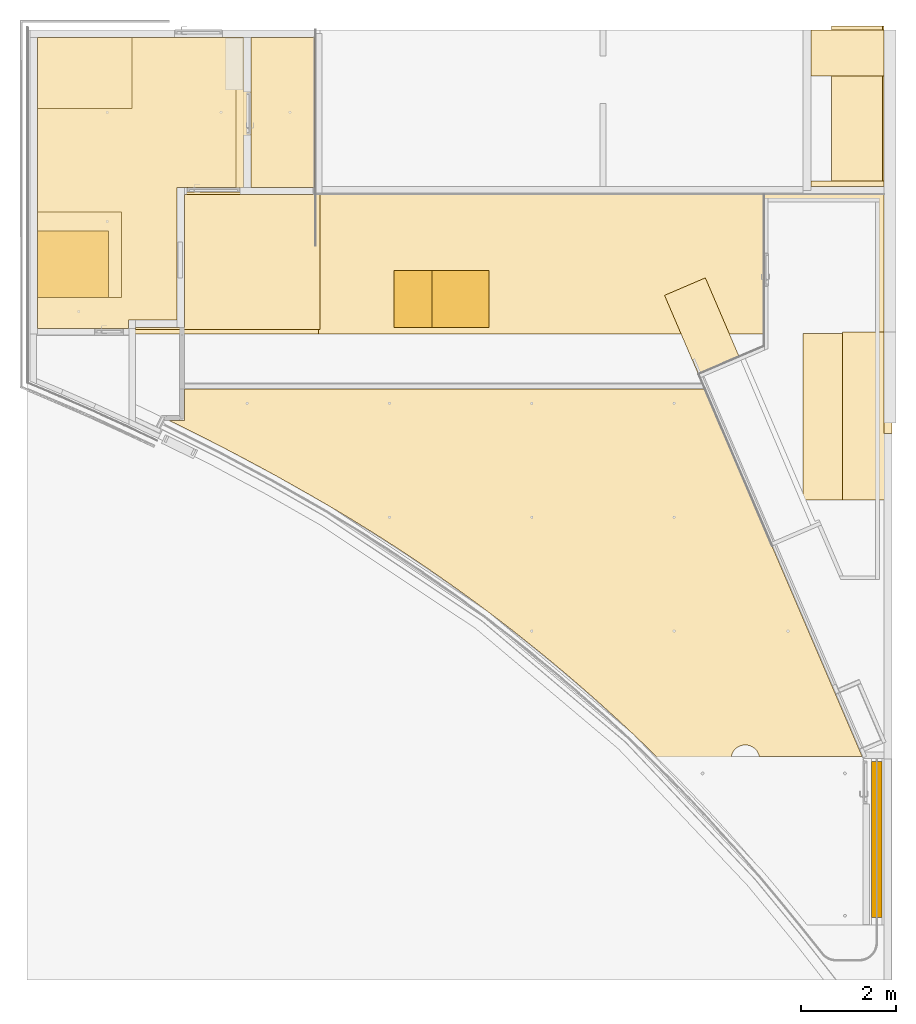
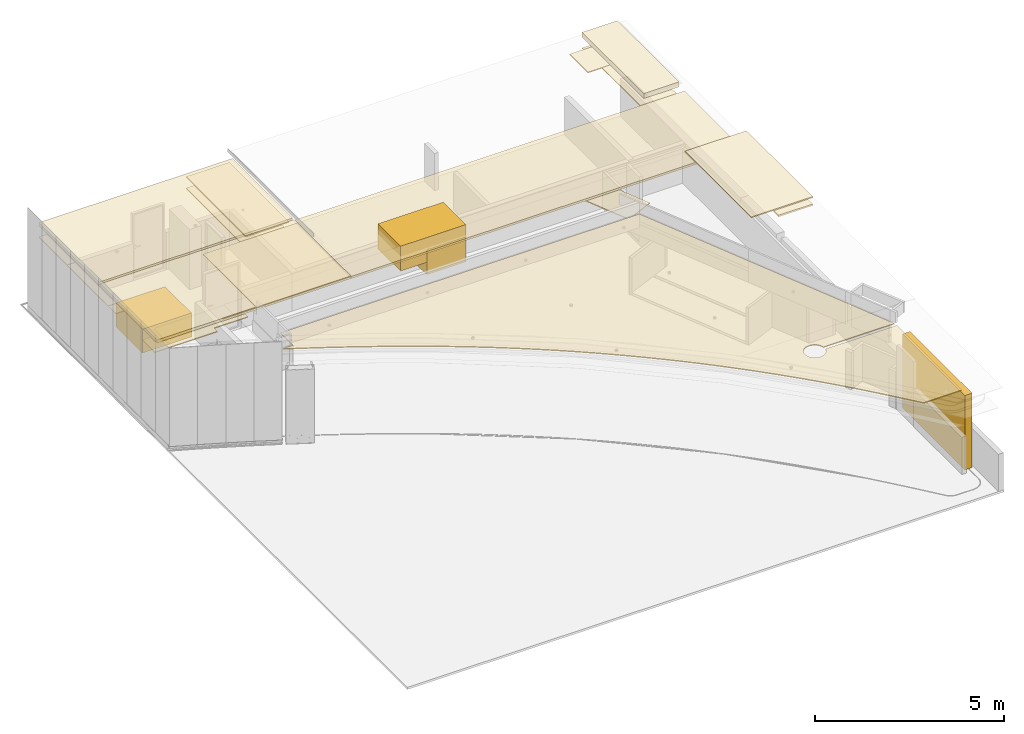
# One storey, part 10 of 16: 20 coverings, 1 door.
"""IFC2X3 building model written with IfcOpenShell, lengths in millimetres."""

from ifc_helpers import new_model, entity, si_unit, converted_unit, derived_unit, direction, frame, frame_2d, origin, origin_with_axes, origin_2d_with_axis, place, context, subcontext, project, spatial, polyline, circle_curve, parameter, trimmed, segment, composite_curve, rectangle, outline, extrude, faceted_brep, source, transform, mapped, material, layer, layer_set, layer_usage, type_object, element, save


model = new_model("IFC2X3")

# Units and contexts
model_context = context("Model", 3, precision=0.01, world=frame((0.0, 4.29681676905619e-09, 0.0)), true_north=direction((4.01073788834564e-13, 1.0)))
plan_context = context("Plan", 3, precision=0.01, world=frame((0.0, 4.29681676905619e-09, 0.0)), true_north=direction((4.01073788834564e-13, 1.0)))
body_context = subcontext(model_context, "Body", "Model", "MODEL_VIEW")
ifc_project = project(units=[converted_unit("PLANEANGLEUNIT", "DEGREE", entity("IfcPositiveLengthMeasure", 0.0174532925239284), si_unit("PLANEANGLEUNIT", "RADIAN"), dimensions=[0, 0, 0, 0, 0, 0, 0]), si_unit("AREAUNIT", "SQUARE_METRE"), si_unit("LENGTHUNIT", "METRE", prefix="MILLI"), si_unit("MASSUNIT", "GRAM", prefix="KILO"), si_unit("POWERUNIT", "WATT"), si_unit("PRESSUREUNIT", "PASCAL"), si_unit("FORCEUNIT", "NEWTON", prefix="KILO"), si_unit("ELECTRICCURRENTUNIT", "AMPERE"), si_unit("THERMODYNAMICTEMPERATUREUNIT", "DEGREE_CELSIUS"), si_unit("TIMEUNIT", "SECOND"), si_unit("VOLUMEUNIT", "CUBIC_METRE"), derived_unit("LINEARVELOCITYUNIT", [(si_unit("LENGTHUNIT", "METRE"), 1), (si_unit("TIMEUNIT", "SECOND"), -1)]), derived_unit("VOLUMETRICFLOWRATEUNIT", [(si_unit("VOLUMEUNIT", "CUBIC_METRE"), 1), (si_unit("TIMEUNIT", "SECOND"), -1)]), derived_unit("THERMALTRANSMITTANCEUNIT", [(si_unit("POWERUNIT", "WATT"), 1), (si_unit("THERMODYNAMICTEMPERATUREUNIT", "KELVIN"), -1), (si_unit("AREAUNIT", "SQUARE_METRE"), -1)])], contexts=[model_context, plan_context])

# Site, building, storey
site_placement = place(None, origin_with_axes())
site = spatial("IfcSite", under=ifc_project, at=site_placement, Name="ENGM", CompositionType="ELEMENT")
building_placement = place(site_placement, origin_with_axes())
building = spatial("IfcBuilding", under=site, at=building_placement, Name="TS", CompositionType="ELEMENT")
storey_placement = place(building_placement, frame((0.0, 0.0, 204000.0), z_axis=(0.0, 0.0, 1.0), x_axis=(1.0, 0.0, 0.0)))
storey = spatial("IfcBuildingStorey", under=building, at=storey_placement, Name="Nivå D", CompositionType="ELEMENT", Elevation=204000.0)

# Door
ifc_material_1 = material(Name="<Unnamed>")
door_style = type_object("IfcDoorStyle", Name="A243 - InPlace - Foldegitter nivå D:A243 - InPlace - Foldegitter nivå D", ConstructionType="NOTDEFINED", OperationType="NOTDEFINED", ParameterTakesPrecedence=False, Sizeable=False, material=ifc_material_1)
shared_shape = source(origin(), body_context, "Body", "SweptSolid", [
    extrude(rectangle(XDim=226.049428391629, YDim=3287.78518884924, at=frame_2d((0.0, -3.46744855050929e-11), x_axis=(1.0, 0.0))), frame((531769.266436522, 403802.357405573, 204000.0), z_axis=(0.0, 0.0, 1.0), x_axis=(-1.0, 0.0, 0.0)), (0.0, 0.0, 1.0), 2400.00000000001),
])
door_placement = place(storey_placement, frame((0.0, 0.0, -204000.0), z_axis=(0.0, 0.0, 1.0), x_axis=(1.0, 0.0, 0.0)))
element("IfcDoor", 1, at=door_placement, inside=storey, type_object=door_style, material=ifc_material_1, Name="A243 - InPlace - Foldegitter nivå D:A243 - InPlace - Foldegitter nivå D", ObjectType="A243 - InPlace - Foldegitter nivå D:A243 - InPlace - Foldegitter nivå D", OverallHeight=3287.78518884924, OverallWidth=226.049428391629, context=body_context, shape_type="MappedRepresentation", body=[
    mapped(shared_shape, transform((0.0, 0.0, 0.0), scale=1.0)),
])

# Coverings
ifc_material_2 = material(Name="_NSW X-finer")
ifc_layer_1 = layer(ifc_material_2, 20.0)
ifc_material_3 = material(Name="_NSW Stålstender, uisolert")
ifc_layer_2 = layer(ifc_material_3, 70.0)
ifc_layer_set_1 = layer_set([ifc_layer_1, ifc_layer_2], Name="Compound Ceiling:A255 - Eksisterende - X-finer 20 mm + TRP 70 mm")
ifc_layer_usage_1 = layer_usage(ifc_layer_set_1, "AXIS3", "NEGATIVE", 90.0)
covering_type_1 = type_object("IfcCoveringType", Name="Compound Ceiling:A255 - Eksisterende - X-finer 20 mm + TRP 70 mm", PredefinedType="CEILING")
covering_1_placement = place(storey_placement, origin_with_axes())
element("IfcCovering", 2, at=covering_1_placement, inside=storey, type_object=covering_type_1, material=ifc_layer_usage_1, Name="Compound Ceiling:A255 - Eksisterende - X-finer 20 mm + TRP 70 mm", ObjectType="Compound Ceiling:A255 - Eksisterende - X-finer 20 mm + TRP 70 mm", PredefinedType="CEILING", context=body_context, shape_type="SweptSolid", body=[
    extrude(rectangle(XDim=5922.50000000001, YDim=3001.00000012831, at=frame_2d((0.0, 3.46744855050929e-11), x_axis=(1.0, 0.0))), frame((517038.750000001, 415959.500000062, 2800.0), z_axis=(0.0, 0.0, 1.0), x_axis=(-1.0, 0.0, 0.0)), (0.0, 0.0, 1.0), 90.0000000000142),
])
ifc_layer_usage_2 = layer_usage(ifc_layer_set_1, "AXIS3", "NEGATIVE", 90.0)
covering_2_placement = place(storey_placement, origin_with_axes())
element("IfcCovering", 3, at=covering_2_placement, inside=storey, type_object=covering_type_1, material=ifc_layer_usage_2, Name="Compound Ceiling:A255 - Eksisterende - X-finer 20 mm + TRP 70 mm", ObjectType="Compound Ceiling:A255 - Eksisterende - X-finer 20 mm + TRP 70 mm", PredefinedType="CEILING", context=body_context, shape_type="SweptSolid", body=[
    extrude(rectangle(XDim=5922.50000000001, YDim=3175.1914532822, at=origin_2d_with_axis()), frame((517038.750000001, 419127.595726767, 2800.0), z_axis=(0.0, 0.0, 1.0), x_axis=(-1.0, 0.0, 0.0)), (0.0, 0.0, 1.0), 90.0000000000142),
])
ifc_material_4 = material(Name="T2 Himlingsplate 600x600 mm")
ifc_layer_3 = layer(ifc_material_4, 30.0)
ifc_layer_set_2 = layer_set([ifc_layer_3], Name="Compound Ceiling:A255 - HI-F01")
ifc_layer_usage_3 = layer_usage(ifc_layer_set_2, "AXIS3", "NEGATIVE", 30.0)
covering_type_2 = type_object("IfcCoveringType", Name="Compound Ceiling:A255 - HI-F01", PredefinedType="CEILING")
covering_3_placement = place(storey_placement, origin_with_axes())
element("IfcCovering", 4, at=covering_3_placement, inside=storey, type_object=covering_type_2, material=ifc_layer_usage_3, Name="Compound Ceiling:A255 - HI-F01", ObjectType="Compound Ceiling:A255 - HI-F01", PredefinedType="CEILING", context=body_context, shape_type="SweptSolid", body=[
    extrude(outline(composite_curve([segment(polyline([(-5813.50674897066, 9053.63796931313), (-5813.50674897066, -1914.16463411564)]), True, "CONTINUOUS"), segment(polyline([(-5813.50674897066, -1914.16463411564), (1931.49325102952, -5233.67587416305)]), True, "CONTINUOUS"), segment(polyline([(1931.49325102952, -5233.67587416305), (1931.49325102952, -3063.77727274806)]), True, "CONTINUOUS"), segment(trimmed(circle_curve(frame_2d((1986.49325102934, -2768.86203068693), x_axis=(0.0, -1.0)), 299.999999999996), [parameter(180.0)], [parameter(349.436022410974)], True, "PARAMETER"), False, "CONTINUOUS"), segment(trimmed(circle_curve(frame_2d((1986.49325102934, -2768.86203068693), x_axis=(0.0, -1.0)), 299.999999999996), [parameter(10.5639775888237)], [parameter(180.0)], True, "PARAMETER"), False, "CONTINUOUS"), segment(polyline([(2041.49325102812, -3063.7772727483), (2041.49325102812, -5246.36203068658)]), True, "CONTINUOUS"), segment(polyline([(2041.49325102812, -5246.36203068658), (5486.49325102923, -5246.36203068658)]), True, "CONTINUOUS"), segment(polyline([(5486.49325102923, -5246.36203068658), (5486.49325102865, -4076.14436758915)]), True, "CONTINUOUS"), segment(trimmed(circle_curve(frame_2d((47450.628195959, 47980.9358744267), x_axis=(0.0, -1.0)), 66865.0), [parameter(319.880916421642)], [parameter(321.127097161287)], True, "PARAMETER"), False, "CONTINUOUS"), segment(trimmed(circle_curve(frame_2d((27110.8250297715, 23842.9651196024), x_axis=(0.0, -1.0)), 35300.0), [parameter(300.401295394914)], [parameter(319.880916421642)], True, "PARAMETER"), False, "CONTINUOUS"), segment(trimmed(circle_curve(frame_2d((38896.9179768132, 30758.1829786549), x_axis=(0.0, -1.0)), 48965.0), [parameter(295.890157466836)], [parameter(300.401295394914)], True, "PARAMETER"), False, "CONTINUOUS"), segment(polyline([(-5153.60214897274, 9377.75029716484), (-5153.60214897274, 9053.63796931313)]), True, "CONTINUOUS"), segment(polyline([(-5153.60214897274, 9053.63796931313), (-5813.50674897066, 9053.63796931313)]), True, "CONTINUOUS")], self_intersect=False)), frame((526231.137969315, 407486.493251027, 2710.0), z_axis=(0.0, 0.0, -1.0), x_axis=(0.0, -1.0, 0.0)), (0.0, 0.0, -1.0), 29.9999999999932),
])
ifc_material_5 = material(Name="_NSW Himlingsplate 600x600 mm")
ifc_layer_4 = layer(ifc_material_5, 30.0)
ifc_layer_set_3 = layer_set([ifc_layer_4], Name="Compound Ceiling:A255 - HI-F02")
ifc_layer_usage_4 = layer_usage(ifc_layer_set_3, "AXIS3", "NEGATIVE", 30.0)
covering_type_3 = type_object("IfcCoveringType", Name="Compound Ceiling:A255 - HI-F02", PredefinedType="CEILING")
covering_4_placement = place(storey_placement, origin_with_axes())
element("IfcCovering", 5, at=covering_4_placement, inside=storey, type_object=covering_type_3, material=ifc_layer_usage_4, Name="Compound Ceiling:A255 - HI-F02", ObjectType="Compound Ceiling:A255 - HI-F02", PredefinedType="CEILING", context=body_context, shape_type="SweptSolid", body=[
    extrude(rectangle(XDim=3162.69145328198, YDim=1347.50000000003, at=frame_2d((-3.46744855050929e-11, -3.46176420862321e-11), x_axis=(1.0, 0.0))), frame((519251.250000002, 419133.845726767, 2400.0), z_axis=(0.0, 0.0, 1.0), x_axis=(0.0, -1.0, 0.0)), (0.0, 0.0, 1.0), 29.9999999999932),
])
ifc_layer_usage_5 = layer_usage(ifc_layer_set_3, "AXIS3", "NEGATIVE", 30.0)
covering_5_placement = place(storey_placement, origin_with_axes())
element("IfcCovering", 6, at=covering_5_placement, inside=storey, type_object=covering_type_3, material=ifc_layer_usage_5, Name="Compound Ceiling:A255 - HI-F02", ObjectType="Compound Ceiling:A255 - HI-F02", PredefinedType="CEILING", context=body_context, shape_type="SweptSolid", body=[
    extrude(outline(polyline([(-3702.96654476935, -169.0), (-3702.96654476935, -2351.50000000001), (-540.275091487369, -2351.50000000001), (-540.275091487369, -1114.0), (2254.72490864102, -1114.0), (2254.72490864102, -86.0), (2434.72490864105, -86.0), (2434.72490864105, 1831.0), (1778.37918187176, 1831.0), (1778.37918187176, 58.50000000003), (-21.6208181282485, 58.50000000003), (-21.6208181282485, 1831.0), (-2202.96654476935, 1831.0), (-2202.96654476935, -169.0), (-3702.96654476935, -169.0)])), frame((515908.500000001, 417012.224908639, 2400.0), z_axis=(0.0, 0.0, -1.0), x_axis=(0.0, -1.0, 0.0)), (0.0, 0.0, -1.0), 29.9999999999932),
])
ifc_layer_usage_6 = layer_usage(ifc_layer_set_3, "AXIS3", "NEGATIVE", 30.0)
covering_6_placement = place(storey_placement, origin_with_axes())
element("IfcCovering", 7, at=covering_6_placement, inside=storey, type_object=covering_type_3, material=ifc_layer_usage_6, Name="Compound Ceiling:A255 - HI-F02", ObjectType="Compound Ceiling:A255 - HI-F02", PredefinedType="CEILING", context=body_context, shape_type="SweptSolid", body=[
    extrude(rectangle(XDim=935.512892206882, YDim=1799.01015618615, at=frame_2d((2.73416844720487e-11, 5.91512616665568e-10), x_axis=(1.0, 0.0))), frame((528082.527678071, 414633.839039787, 2400.0), z_axis=(0.0, 0.0, 1.0), x_axis=(0.91913533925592, 0.393941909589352, 0.0)), (0.0, 0.0, 1.0), 29.9999999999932),
])
ifc_layer_usage_7 = layer_usage(ifc_layer_set_3, "AXIS3", "NEGATIVE", 30.0)
covering_7_placement = place(storey_placement, origin_with_axes())
element("IfcCovering", 8, at=covering_7_placement, inside=storey, type_object=covering_type_3, material=ifc_layer_usage_7, Name="Compound Ceiling:A255 - HI-F02", ObjectType="Compound Ceiling:A255 - HI-F02", PredefinedType="CEILING", context=body_context, shape_type="SweptSolid", body=[
    extrude(outline(polyline([(-681.666666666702, -733.333333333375), (1090.83333333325, -733.333333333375), (1090.83333333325, -333.333333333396), (-409.166666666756, -333.333333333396), (-409.166666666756, 1066.66666666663), (-681.666666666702, 1066.66666666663), (-681.666666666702, -733.333333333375)])), frame((515168.333333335, 416300.512393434, 2400.0), z_axis=(0.0, 0.0, 1.0), x_axis=(-1.0, 0.0, 0.0)), (0.0, 0.0, 1.0), 29.9999999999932),
])
ifc_layer_usage_8 = layer_usage(ifc_layer_set_3, "AXIS3", "NEGATIVE", 30.0)
covering_8_placement = place(storey_placement, origin_with_axes())
element("IfcCovering", 9, at=covering_8_placement, inside=storey, type_object=covering_type_3, material=ifc_layer_usage_8, Name="Compound Ceiling:A255 - HI-F02", ObjectType="Compound Ceiling:A255 - HI-F02", PredefinedType="CEILING", context=body_context, shape_type="SweptSolid", body=[
    extrude(rectangle(XDim=2000.00000000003, YDim=1500.00000000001, at=frame_2d((-3.46744855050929e-11, 0.0), x_axis=(1.0, 0.0))), frame((515077.500000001, 419965.191453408, 2400.0), z_axis=(0.0, 0.0, 1.0), x_axis=(-1.0, 0.0, 0.0)), (0.0, 0.0, 1.0), 29.9999999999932),
])
ifc_material_6 = material(Name="NO_Gipsplate")
ifc_layer_5 = layer(ifc_material_6, 12.5)
ifc_layer_6 = layer(ifc_material_6, 12.5)
ifc_layer_7 = layer(ifc_material_6, 12.5)
ifc_layer_8 = layer(ifc_material_3, 70.0)
ifc_material_7 = material(Name="Isolasjon")
ifc_layer_9 = layer(ifc_material_7, 25.0)
ifc_layer_10 = layer(ifc_material_7, 25.0)
ifc_layer_set_4 = layer_set([ifc_layer_5, ifc_layer_6, ifc_layer_7, ifc_layer_8, ifc_layer_9, ifc_layer_10], Name="Compound Ceiling:A255 - Brannskille NY  - 50 mm brannisol. + TRP 70 mm + 3lag gips")
ifc_layer_usage_9 = layer_usage(ifc_layer_set_4, "AXIS3", "NEGATIVE", 157.5)
covering_type_4 = type_object("IfcCoveringType", Name="Compound Ceiling:A255 - Brannskille NY  - 50 mm brannisol. + TRP 70 mm + 3lag gips", PredefinedType="CEILING")
covering_9_placement = place(storey_placement, origin_with_axes())
element("IfcCovering", 10, at=covering_9_placement, inside=storey, type_object=covering_type_4, material=ifc_layer_usage_9, Name="Compound Ceiling:A255 - Brannskille NY  - 50 mm brannisol. + TRP 70 mm + 3lag gips", ObjectType="Compound Ceiling:A255 - Brannskille NY  - 50 mm brannisol. + TRP 70 mm + 3lag gips", PredefinedType="CEILING", context=body_context, shape_type="SweptSolid", body=[
    extrude(rectangle(XDim=1080.00213578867, YDim=3268.051842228, at=origin_2d_with_axis()), frame((531354.511431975, 419320.880686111, 2875.05682846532), z_axis=(0.0, 0.0, 1.0), x_axis=(-1.0, 0.0, 0.0)), (0.0, 0.0, 1.0), 157.49999999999),
])
covering_type_5 = type_object("IfcCoveringType", Name="Compound Ceiling:A255 - Brannskille NY  - 3lag gips", PredefinedType="CEILING")
covering_10_placement = place(storey_placement, origin_with_axes())
element("IfcCovering", 11, at=covering_10_placement, inside=storey, type_object=covering_type_5, Name="Compound Ceiling:A255 - Brannskille NY  - 3lag gips", ObjectType="Compound Ceiling:A255 - Brannskille NY  - 3lag gips", PredefinedType="CEILING", context=body_context, shape_type="Brep", body=[
    faceted_brep([(530217.51249987, 414469.999999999, 3300.0), (530217.51249987, 414469.999999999, 3337.49999999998), (530217.51249987, 410962.000000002, 3337.49999999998), (530217.51249987, 410962.000000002, 3300.0), (532095.000000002, 410962.000000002, 3337.49999999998), (532095.000000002, 410962.000000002, 3300.0), (532095.000000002, 414469.999999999, 3300.0), (532095.000000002, 414469.999999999, 3337.49999999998)], [[[0, 1, 2, 3]], [[4, 5, 3, 2]], [[6, 7, 1, 0]], [[5, 6, 0, 3]], [[7, 4, 2, 1]], [[7, 6, 5, 4]]], orient=[[False], [False], [False], [False], [False], [False]]),
])
covering_type_6 = type_object("IfcCoveringType", Name="Compound Ceiling:A255 - Eksisterende  - TRP 70 mm", PredefinedType="CEILING")
covering_11_placement = place(storey_placement, origin_with_axes())
element("IfcCovering", 12, at=covering_11_placement, inside=storey, type_object=covering_type_6, Name="Compound Ceiling:A255 - Eksisterende  - TRP 70 mm", ObjectType="Compound Ceiling:A255 - Eksisterende  - TRP 70 mm", PredefinedType="CEILING", context=body_context, shape_type="Brep", body=[
    faceted_brep([(520000.000000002, 414458.999999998, 2797.0), (520000.000000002, 414458.999999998, 2866.99999999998), (531925.000000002, 414458.999999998, 2866.99999999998), (531925.000000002, 414458.999999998, 2797.0), (531925.000000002, 417459.999999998, 2866.99999999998), (531925.000000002, 417459.999999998, 2797.0), (520000.000000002, 417459.999999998, 2866.99999999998), (520000.000000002, 417459.999999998, 2797.0)], [[[0, 1, 2, 3]], [[3, 2, 4, 5]], [[5, 4, 6, 7]], [[7, 6, 1, 0]], [[0, 3, 5, 7]], [[2, 1, 6, 4]]], orient=[[False], [False], [False], [False], [False], [False]]),
])
covering_type_7 = type_object("IfcCoveringType", Name="Compound Ceiling:A255 - Brannskille NY  - 2x25 mm brannisol.", PredefinedType="CEILING")
covering_12_placement = place(storey_placement, origin_with_axes())
element("IfcCovering", 13, at=covering_12_placement, inside=storey, type_object=covering_type_7, Name="Compound Ceiling:A255 - Brannskille NY  - 2x25 mm brannisol.", ObjectType="Compound Ceiling:A255 - Brannskille NY  - 2x25 mm brannisol.", PredefinedType="CEILING", context=body_context, shape_type="Brep", body=[
    faceted_brep([(532095.000000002, 410962.000000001, 3099.99999999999), (532095.000000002, 410962.000000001, 3050.0), (531045.000000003, 410962.000000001, 3050.0), (531045.000000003, 410962.000000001, 3099.99999999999), (532095.000000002, 412364.500000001, 3050.0), (532095.000000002, 412364.500000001, 3099.99999999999), (531925.000000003, 412364.500000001, 3099.99999999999), (531925.000000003, 412364.500000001, 3050.0), (531925.000000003, 414499.999999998, 3099.99999999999), (531925.000000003, 414499.999999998, 3050.0), (531045.000000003, 414499.999999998, 3099.99999999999), (531045.000000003, 414499.999999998, 3050.0)], [[[0, 1, 2, 3]], [[4, 5, 6, 7]], [[7, 6, 8, 9]], [[9, 8, 10, 11]], [[11, 10, 3, 2]], [[1, 4, 7, 9, 11, 2]], [[5, 0, 3, 10, 8, 6]], [[5, 4, 1, 0]]], orient=[[False], [False], [False], [False], [False], [False], [False], [False]]),
])
ifc_layer_11 = layer(ifc_material_5, 30.0)
ifc_layer_set_5 = layer_set([ifc_layer_11], Name="Compound Ceiling:A255 - Mineralull 600x600mm")
ifc_layer_usage_10 = layer_usage(ifc_layer_set_5, "AXIS3", "NEGATIVE", 30.0)
covering_type_8 = type_object("IfcCoveringType", Name="Compound Ceiling:A255 - Mineralull 600x600mm", PredefinedType="CEILING")
covering_13_placement = place(storey_placement, origin_with_axes())
element("IfcCovering", 14, at=covering_13_placement, inside=storey, type_object=covering_type_8, material=ifc_layer_usage_10, Name="Compound Ceiling:A255 - Mineralull 600x600mm", ObjectType="Compound Ceiling:A255 - Mineralull 600x600mm", PredefinedType="CEILING", context=body_context, shape_type="SweptSolid", body=[
    extrude(rectangle(XDim=3268.051842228, YDim=1110.48963592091, at=frame_2d((0.0, -3.46744855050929e-11), x_axis=(1.0, 0.0))), frame((531369.755182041, 419320.880686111, 2500.0), z_axis=(0.0, 0.0, 1.0), x_axis=(0.0, 1.0, 0.0)), (0.0, 0.0, 1.0), 29.9999999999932),
])
covering_14_placement = place(storey_placement, origin_with_axes())
element("IfcCovering", 15, at=covering_14_placement, inside=storey, type_object=covering_type_8, Name="Compound Ceiling:A255 - Mineralull 600x600mm", ObjectType="Compound Ceiling:A255 - Mineralull 600x600mm", PredefinedType="CEILING", context=body_context, shape_type="Brep", body=[
    faceted_brep([(530387.51249987, 417570.000000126, 2500.0), (530387.51249987, 417570.000000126, 2529.99999999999), (531925.000000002, 417570.000000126, 2529.99999999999), (531925.000000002, 417570.000000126, 2500.0), (531925.000000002, 417686.854764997, 2529.99999999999), (531925.000000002, 417686.854764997, 2500.0), (530387.51249987, 417686.854764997, 2529.99999999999), (530387.51249987, 417686.854764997, 2500.0)], [[[0, 1, 2, 3]], [[3, 2, 4, 5]], [[5, 4, 6, 7]], [[7, 6, 1, 0]], [[0, 3, 5, 7]], [[2, 1, 6, 4]]], orient=[[False], [False], [False], [False], [False], [False]]),
    faceted_brep([(530387.51249987, 420870.191453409, 2500.0), (530387.51249987, 420870.191453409, 2529.99999999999), (530387.51249987, 419904.903689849, 2529.99999999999), (530387.51249987, 419904.903689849, 2500.0), (531925.000000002, 419904.903689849, 2529.99999999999), (531925.000000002, 419904.903689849, 2500.0), (531925.000000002, 420870.191453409, 2529.99999999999), (531925.000000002, 420870.191453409, 2500.0)], [[[0, 1, 2, 3]], [[3, 2, 4, 5]], [[6, 7, 5, 4]], [[7, 0, 3, 5]], [[1, 6, 4, 2]], [[7, 6, 1, 0]]], orient=[[False], [False], [False], [False], [False], [False]]),
])
ifc_material_8 = material(Name="_NSW Generell")
ifc_layer_12 = layer(ifc_material_8, 800.0)
ifc_layer_set_6 = layer_set([ifc_layer_12], Name="Compound Ceiling:A255 - avtrekkshetta 800")
ifc_layer_usage_11 = layer_usage(ifc_layer_set_6, "AXIS3", "NEGATIVE", 800.0)
covering_type_9 = type_object("IfcCoveringType", Name="Compound Ceiling:A255 - avtrekkshetta 800", PredefinedType="CEILING")
covering_15_placement = place(storey_placement, origin_with_axes())
element("IfcCovering", 16, at=covering_15_placement, inside=storey, type_object=covering_type_9, material=ifc_layer_usage_11, Name="Compound Ceiling:A255 - avtrekkshetta 800", ObjectType="Compound Ceiling:A255 - avtrekkshetta 800", PredefinedType="CEILING", context=body_context, shape_type="SweptSolid", body=[
    extrude(rectangle(XDim=1200.0, YDim=1200.0, at=origin_2d_with_axis()), frame((523000.000000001, 415199.999999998, 2000.0), z_axis=(0.0, 0.0, 1.0), x_axis=(0.0, 1.0, 0.0)), (0.0, 0.0, 1.0), 799.999999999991),
])
ifc_layer_usage_12 = layer_usage(ifc_layer_set_6, "AXIS3", "NEGATIVE", 800.0)
covering_16_placement = place(storey_placement, origin_with_axes())
element("IfcCovering", 17, at=covering_16_placement, inside=storey, type_object=covering_type_9, material=ifc_layer_usage_12, Name="Compound Ceiling:A255 - avtrekkshetta 800", ObjectType="Compound Ceiling:A255 - avtrekkshetta 800", PredefinedType="CEILING", context=body_context, shape_type="SweptSolid", body=[
    extrude(rectangle(XDim=1200.0, YDim=2000.00000000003, at=frame_2d((0.0, -3.46744855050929e-11), x_axis=(1.0, 0.0))), frame((522600.000000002, 415199.999999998, 2400.0), z_axis=(0.0, 0.0, 1.0), x_axis=(0.0, -1.0, 0.0)), (0.0, 0.0, 1.0), 799.999999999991),
])
ifc_layer_13 = layer(ifc_material_8, 770.0)
ifc_layer_set_7 = layer_set([ifc_layer_13], Name="Compound Ceiling:A255 - avtrekkshetta 770")
ifc_layer_usage_13 = layer_usage(ifc_layer_set_7, "AXIS3", "NEGATIVE", 770.0)
covering_type_10 = type_object("IfcCoveringType", Name="Compound Ceiling:A255 - avtrekkshetta 770", PredefinedType="CEILING")
covering_17_placement = place(storey_placement, origin_with_axes())
element("IfcCovering", 18, at=covering_17_placement, inside=storey, type_object=covering_type_10, material=ifc_layer_usage_13, Name="Compound Ceiling:A255 - avtrekkshetta 770", ObjectType="Compound Ceiling:A255 - avtrekkshetta 770", PredefinedType="CEILING", context=body_context, shape_type="SweptSolid", body=[
    extrude(rectangle(XDim=1400.00000000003, YDim=1500.00000000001, at=frame_2d((-3.46744855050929e-11, 0.0), x_axis=(1.0, 0.0))), frame((514827.500000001, 415933.845726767, 2000.0), z_axis=(0.0, 0.0, 1.0), x_axis=(0.0, -1.0, 0.0)), (0.0, 0.0, 1.0), 769.999999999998),
])
ifc_layer_14 = layer(ifc_material_7, 30.0)
ifc_layer_set_8 = layer_set([ifc_layer_14], Name="Compound Ceiling:A255 - Brannskille 30 mm brannisol")
ifc_layer_usage_14 = layer_usage(ifc_layer_set_8, "AXIS3", "NEGATIVE", 30.0)
covering_type_11 = type_object("IfcCoveringType", Name="Compound Ceiling:A255 - Brannskille 30 mm brannisol", PredefinedType="CEILING")
covering_18_placement = place(storey_placement, origin_with_axes())
element("IfcCovering", 19, at=covering_18_placement, inside=storey, type_object=covering_type_11, material=ifc_layer_usage_14, Name="Compound Ceiling:A255 - Brannskille 30 mm brannisol", ObjectType="Compound Ceiling:A255 - Brannskille 30 mm brannisol", PredefinedType="CEILING", context=body_context, shape_type="SweptSolid", body=[
    extrude(outline(polyline([(-3814.51859002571, -2301.74999999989), (2323.1728633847, -2301.74999999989), (2323.1728633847, -384.74999999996), (2143.17286338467, -384.74999999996), (2143.17286338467, 643.250000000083), (-651.827136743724, 643.250000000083), (-651.827136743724, 2043.25000000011), (-3814.51859002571, 2043.25000000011), (-3814.51859002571, -2301.74999999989)])), frame((516379.250000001, 416900.672863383, 2769.99971681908), z_axis=(0.0, 0.0, 1.0), x_axis=(0.0, -1.0, 0.0)), (0.0, 0.0, 1.0), 29.9999999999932),
])
ifc_layer_usage_15 = layer_usage(ifc_layer_set_8, "AXIS3", "NEGATIVE", 30.0)
covering_19_placement = place(storey_placement, origin_with_axes())
element("IfcCovering", 20, at=covering_19_placement, inside=storey, type_object=covering_type_11, material=ifc_layer_usage_15, Name="Compound Ceiling:A255 - Brannskille 30 mm brannisol", ObjectType="Compound Ceiling:A255 - Brannskille 30 mm brannisol", PredefinedType="CEILING", context=body_context, shape_type="SweptSolid", body=[
    extrude(rectangle(XDim=3162.69145328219, YDim=1320.00000000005, at=frame_2d((-6.92352841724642e-11, 3.46744855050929e-11), x_axis=(1.0, 0.0))), frame((519237.500000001, 419133.845726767, 2769.99971681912), z_axis=(0.0, 0.0, 1.0), x_axis=(0.0, -1.0, 0.0)), (0.0, 0.0, 1.0), 29.9999999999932),
])
ifc_layer_usage_16 = layer_usage(ifc_layer_set_8, "AXIS3", "NEGATIVE", 30.0)
covering_20_placement = place(storey_placement, origin_with_axes())
element("IfcCovering", 21, at=covering_20_placement, inside=storey, type_object=covering_type_11, material=ifc_layer_usage_16, Name="Compound Ceiling:A255 - Brannskille 30 mm brannisol", ObjectType="Compound Ceiling:A255 - Brannskille 30 mm brannisol", PredefinedType="CEILING", context=body_context, shape_type="SweptSolid", body=[
    extrude(outline(polyline([(-1879.16666670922, 611.499999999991), (-1879.16666670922, -2251.0), (963.33333329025, -2251.0), (963.333333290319, 1639.50000000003), (915.833333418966, 1639.50000000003), (915.833333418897, 611.499999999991), (-1879.16666670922, 611.499999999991)])), frame((517789.000000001, 415518.333333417, 2769.99971681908), z_axis=(0.0, 0.0, -1.0), x_axis=(0.0, -1.0, 0.0)), (0.0, 0.0, -1.0), 29.9999999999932),
])

save(model, "model.ifc")
